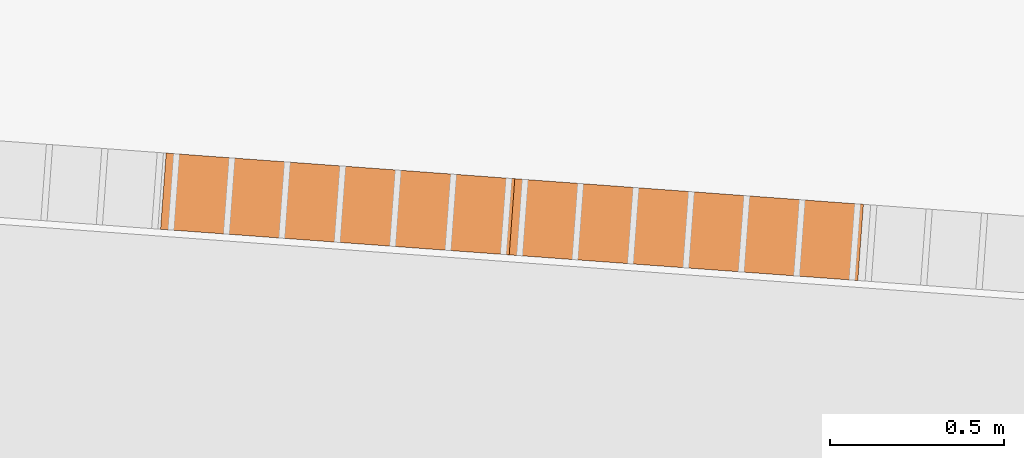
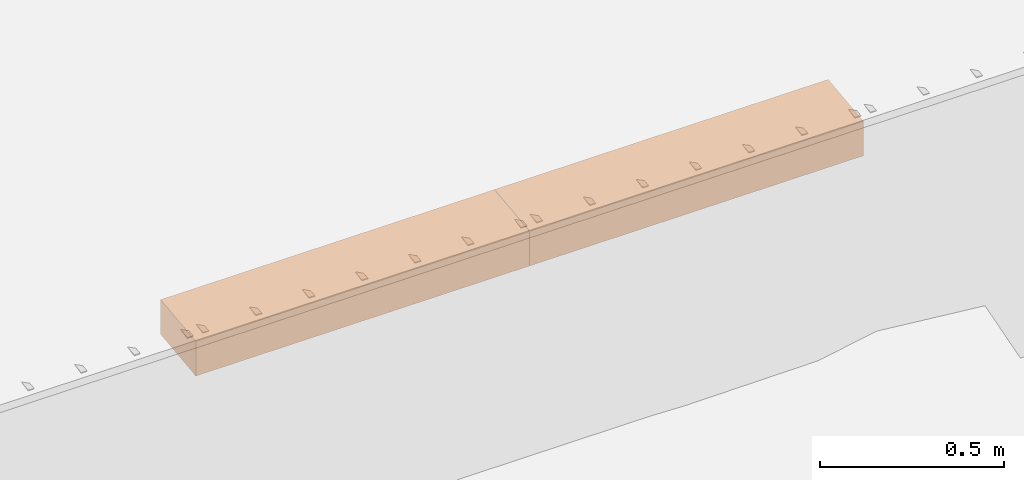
# Not in any storey, part 25 of 33: 2 proxies.
"""IFC4 model written with IfcOpenShell, lengths in metres."""

from ifc_helpers import new_model, si_unit, direction, frame, origin_with_axes, place, context, subcontext, project, spatial, polygons, material, element, save


model = new_model("IFC4")

# Units and contexts
model_context = context("Model", 3, precision=1e-05, world=origin_with_axes(), true_north=direction((0.0, 1.0)))
body_context = subcontext(model_context, "Body", "Model", "MODEL_VIEW")
ifc_project = project(units=[si_unit("LENGTHUNIT", "METRE"), si_unit("AREAUNIT", "SQUARE_METRE"), si_unit("VOLUMEUNIT", "CUBIC_METRE")], contexts=[model_context])

# Site
site_placement = place(None, origin_with_axes())
site = spatial("IfcSite", under=ifc_project, at=site_placement, Name="Lares · Rua das Mercês · artigo 4771")

# Proxies
ifc_material = material(Name="Brita drenante", Category="stone")
proxy_1_placement = place(site_placement, frame((0.0, 0.0, 0.0), z_axis=(0.0, 0.0, 1.0), x_axis=(1.0, -1.03767253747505e-17, 0.0)))
element("IfcBuildingElementProxy", 1, at=proxy_1_placement, inside=site, material=ifc_material, Name="Acesso · dreno lateral raso · leito drenante", ObjectType="Acesso · dreno lateral raso · leito drenante", PredefinedType="USERDEFINED", context=body_context, shape_type="Tessellation", body=[
    polygons([(60.7063099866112, 2.18792197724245, 14.7304839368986), (60.722437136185, 2.40733007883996, 14.7304839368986), (61.7265505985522, 2.33352474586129, 14.7887924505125), (61.7104234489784, 2.11411664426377, 14.7887924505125), (60.7063099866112, 2.18792197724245, 14.8454839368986), (60.722437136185, 2.40733007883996, 14.8454839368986), (61.7265505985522, 2.33352474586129, 14.9037924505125), (61.7104234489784, 2.11411664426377, 14.9037924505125)], [[[4, 3, 2, 1]], [[5, 6, 7, 8]], [[1, 2, 6, 5]], [[2, 3, 7, 6]], [[3, 4, 8, 7]], [[4, 1, 5, 8]]]),
])
proxy_2_placement = place(site_placement, frame((0.0, 0.0, 0.0), z_axis=(0.0, 0.0, 1.0), x_axis=(1.0, -1.03767253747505e-17, 0.0)))
element("IfcBuildingElementProxy", 2, at=proxy_2_placement, inside=site, material=ifc_material, Name="Acesso · dreno lateral raso · leito drenante", ObjectType="Acesso · dreno lateral raso · leito drenante", PredefinedType="USERDEFINED", context=body_context, shape_type="Tessellation", body=[
    polygons([(61.7104234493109, 2.11411664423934, 14.7887924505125), (61.7265505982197, 2.33352474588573, 14.7887924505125), (62.7306585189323, 2.25971982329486, 14.8471006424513), (62.7145313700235, 2.04031172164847, 14.8471006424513), (61.7104234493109, 2.11411664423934, 14.9037924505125), (61.7265505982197, 2.33352474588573, 14.9037924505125), (62.7306585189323, 2.25971982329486, 14.9621006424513), (62.7145313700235, 2.04031172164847, 14.9621006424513)], [[[4, 3, 2, 1]], [[5, 6, 7, 8]], [[1, 2, 6, 5]], [[2, 3, 7, 6]], [[3, 4, 8, 7]], [[4, 1, 5, 8]]]),
])

save(model, "model.ifc")
